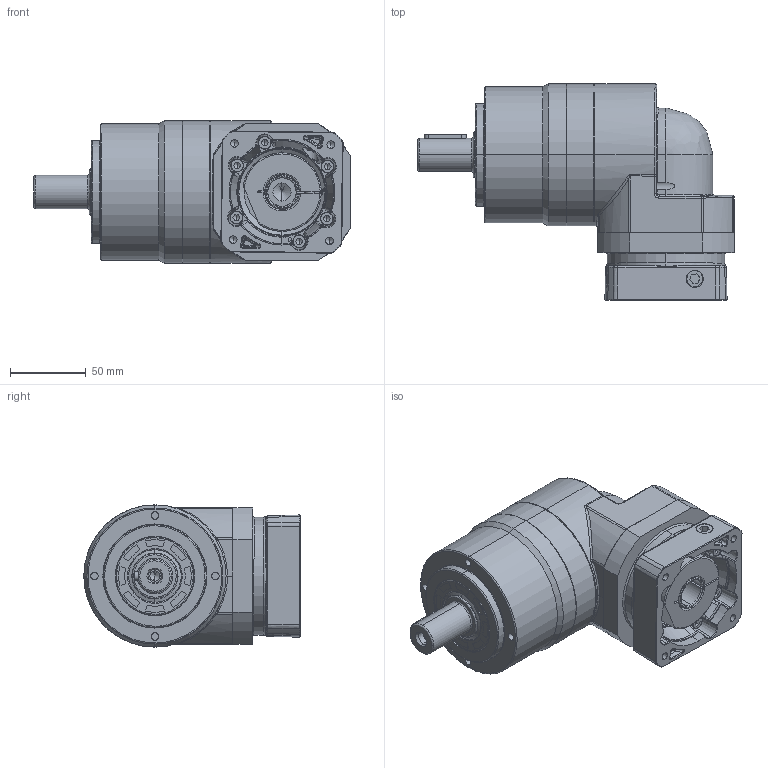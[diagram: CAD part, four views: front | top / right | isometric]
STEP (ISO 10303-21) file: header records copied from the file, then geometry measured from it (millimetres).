
FILE_DESCRIPTION (( 'STEP AP214' ), '1' );
FILE_NAME ('EVT090-L1-S2-P1 19-70-90-M6-45.STEP', '2025-02-14T06:52:10', ( '微软用户' ), ( '微软中国' ), 'SwSTEP 2.0', 'SolidWorks 2021', '' );
FILE_SCHEMA (( 'AUTOMOTIVE_DESIGN' ));
Length unit declared in the file: millimetre
Products named in the file (4): EVT090D-L1-10-80-100-M6-45.STEP; 7-EVT090F_________stp_stp.stp.STEP; VRL090D-L1-S2-19-70-90-M6-45.STEP; EVT090-L1-S2-P1 19-70-90-M6-45
Assembly tree (7 placements, depth 2):
  EVT090-L1-S2-P1 19-70-90-M6-45
    VRL090D-L1-S2-19-70-90-M6-45.STEP
    7-EVT090F_________stp_stp.stp.STEP
    EVT090D-L1-10-80-100-M6-45.STEP  x5
Bounding box: 209 x 143.02 x 94 mm (x, y, z)
Volume: 242188.5 mm3; surface area: 203058 mm2
Topology: 1 solids, 34 shells, 1202 faces, 2977 edges, 1893 vertices
Faces by surface type: cylinder 379, plane 370, bspline 260, cone 189, torus 4
Entity records: 56387 total; most frequent: CARTESIAN_POINT 32490, ORIENTED_EDGE 5245, DIRECTION 4391, EDGE_CURVE 2651, AXIS2_PLACEMENT_3D 1737, VERTEX_POINT 1701, EDGE_LOOP 1213, ADVANCED_FACE 1086
